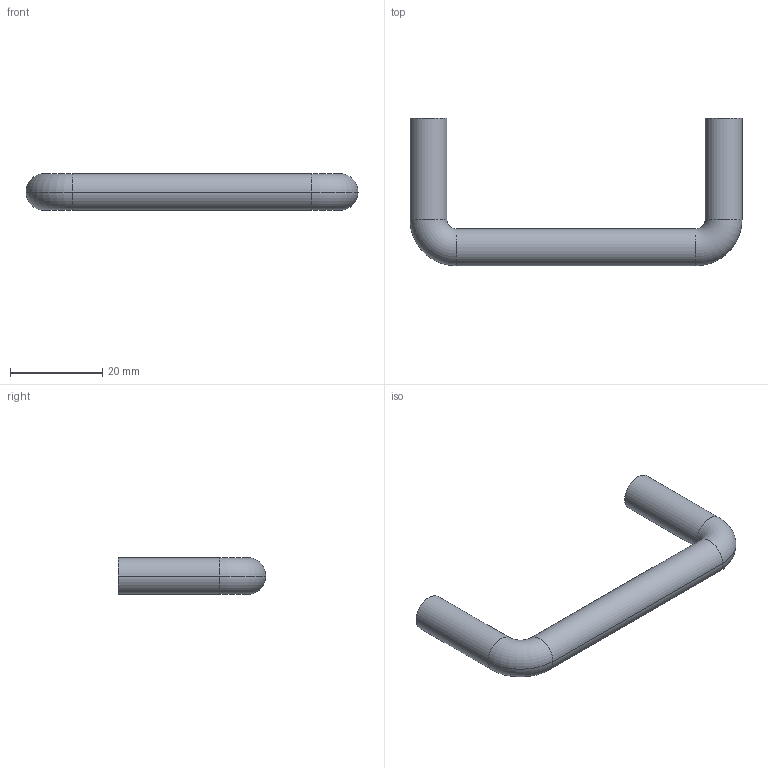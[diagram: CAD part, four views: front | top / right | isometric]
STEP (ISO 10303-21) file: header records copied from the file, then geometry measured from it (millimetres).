
FILE_DESCRIPTION( ( '' ), '1' );
FILE_NAME( 'C:/Documents and Settings/Sachin/Desktop/Sheet 10_1/stp/9070605.stp', '2013-10-22T08:35:10', ( '' ), ( '' ), ' ', ' ', ' ' );
FILE_SCHEMA( ( 'CONFIG_CONTROL_DESIGN' ) );
Length unit declared in the file: millimetre
Products named in the file (1): 1
Bounding box: 72 x 32 x 8 mm (x, y, z)
Volume: 5597 mm3; surface area: 3162.9 mm2
Topology: 1 solids, 1 shells, 18 faces, 34 edges, 20 vertices
Faces by surface type: cylinder 10, torus 4, plane 4
Entity records: 502 total; most frequent: DIRECTION 96, CARTESIAN_POINT 73, ORIENTED_EDGE 68, AXIS2_PLACEMENT_3D 43, EDGE_CURVE 34, CIRCLE 24, EDGE_LOOP 20, VERTEX_POINT 20
